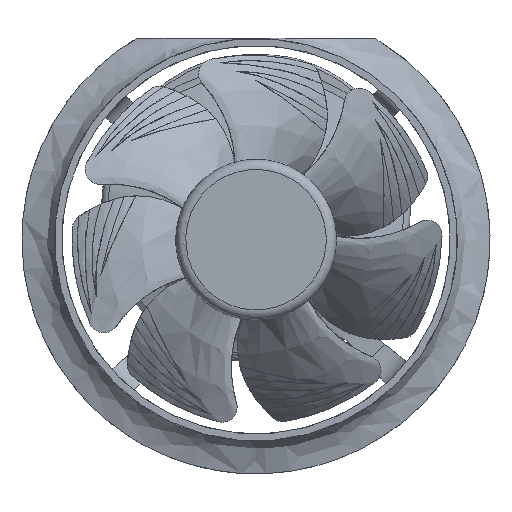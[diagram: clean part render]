
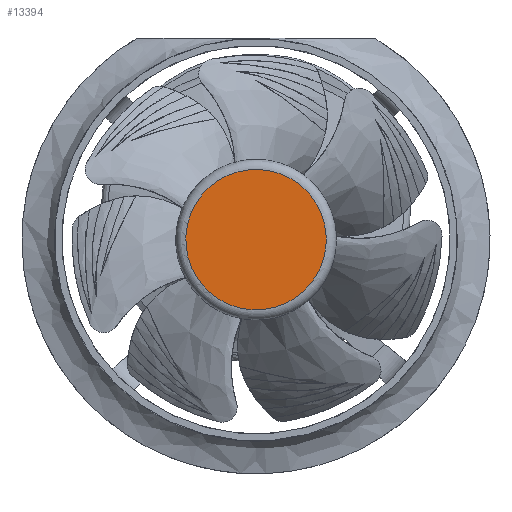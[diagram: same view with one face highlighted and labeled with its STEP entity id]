
A CAD part, top view. The second image highlights one B-rep face of the part: STEP entity #13394.
In plain terms, the highlighted planar face has unit normal (0, 0, 1) as drawn and (0, 1, 0) by its records, which use the part's own axes.
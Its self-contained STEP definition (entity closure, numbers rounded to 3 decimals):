
#428=PLANE('',#15578);
#2747=B_SPLINE_CURVE_WITH_KNOTS('',3,(#25471,#25472,#25473,#25474,#25475,
#25476,#25477,#25478),.UNSPECIFIED.,.F.,.F.,(4,1,1,1,1,4),(0.,0.25,0.375,
0.5,0.75,1.),.UNSPECIFIED.);
#2748=B_SPLINE_CURVE_WITH_KNOTS('',3,(#25481,#25482,#25483,#25484,#25485,
#25486,#25487,#25488,#25489,#25490,#25491,#25492,#25493,#25494,#25495,#25496,
#25497,#25498),.UNSPECIFIED.,.F.,.F.,(4,1,1,1,1,1,1,1,1,1,1,1,1,1,1,4),
(0.,0.063,0.125,0.188,0.25,0.313,0.375,0.5,0.563,0.625,0.688,0.75,
0.813,0.875,0.938,1.),.UNSPECIFIED.);
#2749=B_SPLINE_CURVE_WITH_KNOTS('',3,(#25500,#25501,#25502,#25503,#25504,
#25505,#25506,#25507,#25508,#25509,#25510,#25511,#25512,#25513,#25514,#25515,
#25516,#25517,#25518,#25519,#25520,#25521,#25522,#25523,#25524,#25525,#25526,
#25527,#25528,#25529,#25530,#25531,#25532,#25533,#25534,#25535,#25536,#25537,
#25538,#25539,#25540,#25541,#25542,#25543,#25544,#25545,#25546,#25547,#25548,
#25549,#25550,#25551,#25552,#25553,#25554,#25555),.UNSPECIFIED.,.F.,.F.,
(4,1,1,1,1,1,1,1,1,1,1,1,1,1,1,1,1,1,1,1,1,1,1,1,1,1,1,1,1,1,1,1,1,1,1,
1,1,1,1,1,1,1,1,1,1,1,1,1,1,1,1,1,1,4),(0.,0.031,0.047,0.063,0.078,
0.094,0.109,0.125,0.141,0.156,0.172,0.188,0.203,0.219,
0.234,0.25,0.266,0.281,0.297,0.313,0.328,0.344,0.375,0.406,
0.438,0.5,0.531,0.563,0.594,0.609,0.625,0.641,0.656,0.672,
0.688,0.703,0.719,0.734,0.75,0.766,0.781,0.797,0.813,
0.828,0.844,0.859,0.875,0.891,0.906,0.922,0.938,0.953,
0.969,1.),.UNSPECIFIED.);
#2750=B_SPLINE_CURVE_WITH_KNOTS('',3,(#25557,#25558,#25559,#25560,#25561,
#25562,#25563),.UNSPECIFIED.,.F.,.F.,(4,1,1,1,4),(0.,0.25,0.5,0.75,1.),
 .UNSPECIFIED.);
#5297=ORIENTED_EDGE('',*,*,#8360,.F.);
#5298=ORIENTED_EDGE('',*,*,#8361,.F.);
#5299=ORIENTED_EDGE('',*,*,#8362,.F.);
#5300=ORIENTED_EDGE('',*,*,#8363,.F.);
#8360=EDGE_CURVE('',#10076,#10077,#2747,.F.);
#8361=EDGE_CURVE('',#10078,#10076,#2748,.F.);
#8362=EDGE_CURVE('',#10079,#10078,#2749,.F.);
#8363=EDGE_CURVE('',#10077,#10079,#2750,.F.);
#10076=VERTEX_POINT('',#25479);
#10077=VERTEX_POINT('',#25480);
#10078=VERTEX_POINT('',#25499);
#10079=VERTEX_POINT('',#25556);
#11566=EDGE_LOOP('',(#5297,#5298,#5299,#5300));
#12374=FACE_BOUND('',#11566,.T.);
#13394=ADVANCED_FACE('',(#12374),#428,.T.);
#15578=AXIS2_PLACEMENT_3D('',#25470,#17683,#17684);
#17683=DIRECTION('',(0.,1.,0.));
#17684=DIRECTION('',(0.,0.,1.));
#25470=CARTESIAN_POINT('',(0.,1.2,0.));
#25471=CARTESIAN_POINT('',(13.863,1.2,-1.558));
#25472=CARTESIAN_POINT('',(13.747,1.2,-2.589));
#25473=CARTESIAN_POINT('',(13.416,1.2,-4.07));
#25474=CARTESIAN_POINT('',(12.603,1.2,-6.051));
#25475=CARTESIAN_POINT('',(11.588,1.2,-7.891));
#25476=CARTESIAN_POINT('',(9.904,1.2,-9.991));
#25477=CARTESIAN_POINT('',(8.3,1.2,-11.26));
#25478=CARTESIAN_POINT('',(7.427,1.2,-11.809));
#25479=CARTESIAN_POINT('',(7.427,1.2,-11.809));
#25480=CARTESIAN_POINT('',(13.863,1.2,-1.558));
#25481=CARTESIAN_POINT('',(7.427,1.2,-11.809));
#25482=CARTESIAN_POINT('',(7.062,1.2,-12.038));
#25483=CARTESIAN_POINT('',(6.307,1.2,-12.464));
#25484=CARTESIAN_POINT('',(5.158,1.2,-12.985));
#25485=CARTESIAN_POINT('',(3.827,1.2,-13.439));
#25486=CARTESIAN_POINT('',(2.518,1.2,-13.744));
#25487=CARTESIAN_POINT('',(1.075,1.2,-13.934));
#25488=CARTESIAN_POINT('',(-0.815,1.2,-13.983));
#25489=CARTESIAN_POINT('',(-2.784,1.2,-13.73));
#25490=CARTESIAN_POINT('',(-4.647,1.2,-13.181));
#25491=CARTESIAN_POINT('',(-6.011,1.2,-12.616));
#25492=CARTESIAN_POINT('',(-7.254,1.2,-11.945));
#25493=CARTESIAN_POINT('',(-8.459,1.2,-11.122));
#25494=CARTESIAN_POINT('',(-9.486,1.2,-10.259));
#25495=CARTESIAN_POINT('',(-10.469,1.2,-9.252));
#25496=CARTESIAN_POINT('',(-11.259,1.2,-8.268));
#25497=CARTESIAN_POINT('',(-11.74,1.2,-7.547));
#25498=CARTESIAN_POINT('',(-11.962,1.2,-7.177));
#25499=CARTESIAN_POINT('',(-11.962,1.2,-7.177));
#25500=CARTESIAN_POINT('',(-11.962,1.2,-7.177));
#25501=CARTESIAN_POINT('',(-12.121,1.2,-6.912));
#25502=CARTESIAN_POINT('',(-12.346,1.2,-6.508));
#25503=CARTESIAN_POINT('',(-12.622,1.2,-5.946));
#25504=CARTESIAN_POINT('',(-12.805,1.2,-5.543));
#25505=CARTESIAN_POINT('',(-13.013,1.2,-5.036));
#25506=CARTESIAN_POINT('',(-13.191,1.2,-4.55));
#25507=CARTESIAN_POINT('',(-13.355,1.2,-4.043));
#25508=CARTESIAN_POINT('',(-13.492,1.2,-3.561));
#25509=CARTESIAN_POINT('',(-13.637,1.2,-2.96));
#25510=CARTESIAN_POINT('',(-13.749,1.2,-2.388));
#25511=CARTESIAN_POINT('',(-13.838,1.2,-1.794));
#25512=CARTESIAN_POINT('',(-13.9,1.2,-1.23));
#25513=CARTESIAN_POINT('',(-13.945,1.2,-0.542));
#25514=CARTESIAN_POINT('',(-13.955,1.2,0.11));
#25515=CARTESIAN_POINT('',(-13.933,1.2,0.78));
#25516=CARTESIAN_POINT('',(-13.884,1.2,1.416));
#25517=CARTESIAN_POINT('',(-13.787,1.2,2.169));
#25518=CARTESIAN_POINT('',(-13.657,1.2,2.878));
#25519=CARTESIAN_POINT('',(-13.485,1.2,3.596));
#25520=CARTESIAN_POINT('',(-13.285,1.2,4.278));
#25521=CARTESIAN_POINT('',(-13.013,1.2,5.049));
#25522=CARTESIAN_POINT('',(-12.604,1.2,6.019));
#25523=CARTESIAN_POINT('',(-12.004,1.2,7.17));
#25524=CARTESIAN_POINT('',(-11.034,1.2,8.593));
#25525=CARTESIAN_POINT('',(-9.567,1.2,10.261));
#25526=CARTESIAN_POINT('',(-7.711,1.2,11.729));
#25527=CARTESIAN_POINT('',(-5.647,1.2,12.796));
#25528=CARTESIAN_POINT('',(-4.011,1.2,13.397));
#25529=CARTESIAN_POINT('',(-2.653,1.2,13.715));
#25530=CARTESIAN_POINT('',(-1.549,1.2,13.873));
#25531=CARTESIAN_POINT('',(-0.69,1.2,13.941));
#25532=CARTESIAN_POINT('',(0.087,1.2,13.957));
#25533=CARTESIAN_POINT('',(0.885,1.2,13.93));
#25534=CARTESIAN_POINT('',(1.667,1.2,13.858));
#25535=CARTESIAN_POINT('',(2.477,1.2,13.735));
#25536=CARTESIAN_POINT('',(3.172,1.2,13.591));
#25537=CARTESIAN_POINT('',(3.886,1.2,13.405));
#25538=CARTESIAN_POINT('',(4.574,1.2,13.186));
#25539=CARTESIAN_POINT('',(5.284,1.2,12.917));
#25540=CARTESIAN_POINT('',(5.868,1.2,12.661));
#25541=CARTESIAN_POINT('',(6.469,1.2,12.365));
#25542=CARTESIAN_POINT('',(7.04,1.2,12.05));
#25543=CARTESIAN_POINT('',(7.627,1.2,11.686));
#25544=CARTESIAN_POINT('',(8.095,1.2,11.366));
#25545=CARTESIAN_POINT('',(8.576,1.2,11.008));
#25546=CARTESIAN_POINT('',(9.029,1.2,10.64));
#25547=CARTESIAN_POINT('',(9.491,1.2,10.229));
#25548=CARTESIAN_POINT('',(9.851,1.2,9.881));
#25549=CARTESIAN_POINT('',(10.222,1.2,9.498));
#25550=CARTESIAN_POINT('',(10.567,1.2,9.113));
#25551=CARTESIAN_POINT('',(10.917,1.2,8.69));
#25552=CARTESIAN_POINT('',(11.186,1.2,8.339));
#25553=CARTESIAN_POINT('',(11.552,1.2,7.831));
#25554=CARTESIAN_POINT('',(11.802,1.2,7.443));
#25555=CARTESIAN_POINT('',(11.962,1.2,7.177));
#25556=CARTESIAN_POINT('',(11.962,1.2,7.177));
#25557=CARTESIAN_POINT('',(11.962,1.2,7.177));
#25558=CARTESIAN_POINT('',(12.35,1.2,6.53));
#25559=CARTESIAN_POINT('',(13.017,1.2,5.185));
#25560=CARTESIAN_POINT('',(13.694,1.2,2.98));
#25561=CARTESIAN_POINT('',(13.995,1.2,0.692));
#25562=CARTESIAN_POINT('',(13.947,1.2,-0.808));
#25563=CARTESIAN_POINT('',(13.863,1.2,-1.558));
